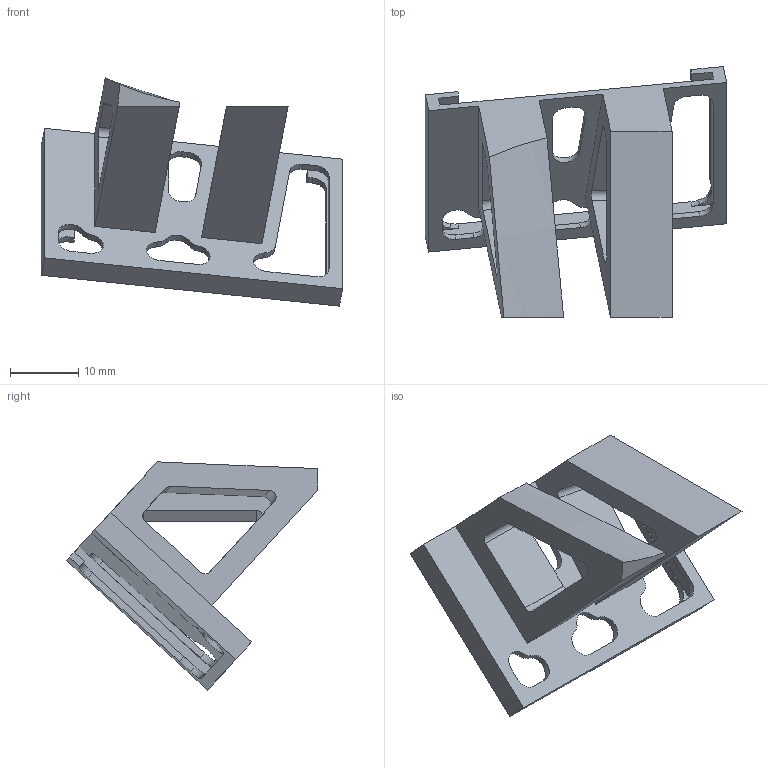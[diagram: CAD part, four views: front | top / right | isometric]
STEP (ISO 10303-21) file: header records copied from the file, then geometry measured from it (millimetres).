
FILE_DESCRIPTION(/* description */ ('STEP AP242 Edition 2','CAx-IF Rec.Pracs.---Representation and Presentation of Product Manufacturing Information (PMI)---4.0---2014-10-13','CAx-IF Rec.Pracs.---3D Tessellated Geometry---0.4---2014-09-14','2;1','CAx-IF Rec.Pracs.---User Defined Attributes---1.5---2016-08-15'),/* implementation_level */ '2;1');
FILE_NAME(/* name */ 'main - camera mount left bottom second',/* time_stamp */ '2026-11-08T20:03:43Z',/* author */ (''),/* organization */ (''),/* preprocessor_version */ 'ST-DEVELOPER v20',/* originating_system */ 'ONSHAPE BY PTC INC, 1.223',/* authorisation */ ' ');
FILE_SCHEMA (('AP242_MANAGED_MODEL_BASED_3D_ENGINEERING_MIM_LF { 1 0 10303 442 3 1 4 }'));
Length unit declared in the file: metre
Products named in the file (1): camera mount left bottom second
Bounding box: 44.06 x 36.71 x 33.38 mm (x, y, z)
Volume: 5278 mm3; surface area: 5329.2 mm2
Topology: 1 solids, 1 shells, 79 faces, 229 edges, 152 vertices
Faces by surface type: plane 43, cylinder 35, bspline 1
Entity records: 2673 total; most frequent: CARTESIAN_POINT 474, DIRECTION 459, ORIENTED_EDGE 458, EDGE_CURVE 229, LINE 153, VECTOR 153, AXIS2_PLACEMENT_3D 153, VERTEX_POINT 152
